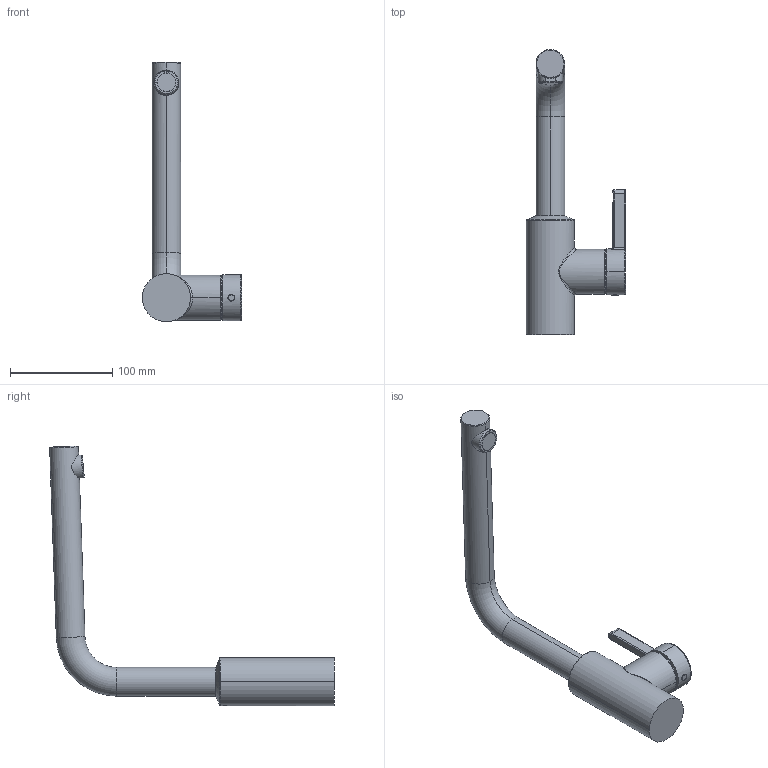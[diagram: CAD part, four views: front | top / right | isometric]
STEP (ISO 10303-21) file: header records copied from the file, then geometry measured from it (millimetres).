
FILE_DESCRIPTION((''),'2;1');
FILE_NAME('SIDE_LEVER_10_541_032_SW0001','2023-09-11T14:49:35',('YY993'),(''),'CREO PARAMETRIC BY PTC INC, 2022244','CREO PARAMETRIC BY PTC INC, 2022244','');
FILE_SCHEMA(('CONFIG_CONTROL_DESIGN'));
Length unit declared in the file: millimetre
Products named in the file (1): SIDE_LEVER_10_541_032_SW0001
Bounding box: 97 x 277.77 x 253.38 mm (x, y, z)
Volume: 504344.2 mm3; surface area: 62988.5 mm2
Topology: 2 solids, 2 shells, 89 faces, 202 edges, 122 vertices
Faces by surface type: cylinder 30, plane 18, torus 18, bspline 17, cone 6
Entity records: 5844 total; most frequent: CARTESIAN_POINT 3949, ORIENTED_EDGE 404, DIRECTION 364, EDGE_CURVE 202, AXIS2_PLACEMENT_3D 160, VERTEX_POINT 122, EDGE_LOOP 94, FACE_OUTER_BOUND 89
